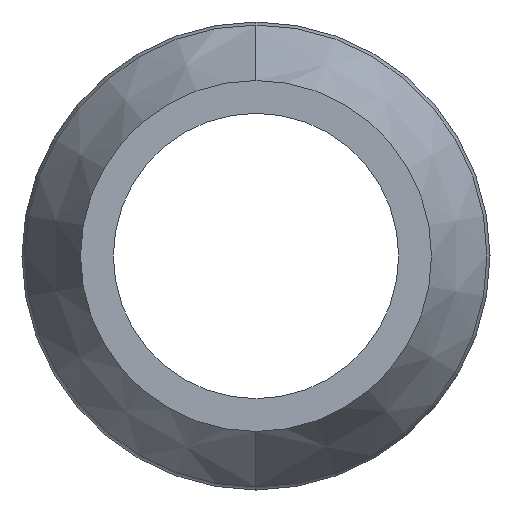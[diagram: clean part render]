
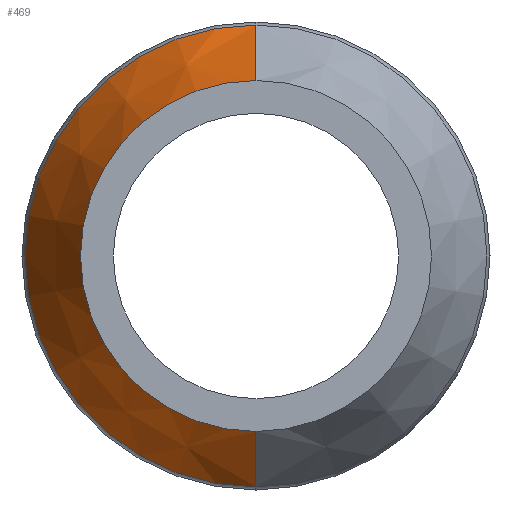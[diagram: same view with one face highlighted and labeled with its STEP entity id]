
A CAD part, left-side view. The second image highlights one B-rep face of the part: STEP entity #469.
In plain terms, the highlighted conical face has half-angle 26.565 degrees and reference radius 4.763 mm.
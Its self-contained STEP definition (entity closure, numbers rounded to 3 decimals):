
#12 = DIRECTION ( 'NONE',  ( 1., 0., 0. ) ) ;
#25 = CARTESIAN_POINT ( 'NONE',  ( 19.05, 0., 4.763 ) ) ;
#36 = CARTESIAN_POINT ( 'NONE',  ( 22.059, 0., 6.267 ) ) ;
#38 = DIRECTION ( 'NONE',  ( 0.894, 0., -0.447 ) ) ;
#40 = AXIS2_PLACEMENT_3D ( 'NONE', #362, #227, #149 ) ;
#52 = ORIENTED_EDGE ( 'NONE', *, *, #156, .F. ) ;
#57 = DIRECTION ( 'NONE',  ( 1., 0., 0. ) ) ;
#68 = VECTOR ( 'NONE', #38, 1000. ) ;
#77 = CARTESIAN_POINT ( 'NONE',  ( 19.05, 0., -4.763 ) ) ;
#87 = CARTESIAN_POINT ( 'NONE',  ( 22.059, 0., -6.267 ) ) ;
#127 = VECTOR ( 'NONE', #375, 1000. ) ;
#138 = LINE ( 'NONE', #77, #68 ) ;
#149 = DIRECTION ( 'NONE',  ( 0., 0., 1. ) ) ;
#153 = VERTEX_POINT ( 'NONE', #36 ) ;
#156 = EDGE_CURVE ( 'NONE', #309, #460, #138, .T. ) ;
#162 = DIRECTION ( 'NONE',  ( 0., 0., -1. ) ) ;
#166 = CARTESIAN_POINT ( 'NONE',  ( 19.05, 0., 0. ) ) ;
#170 = CARTESIAN_POINT ( 'NONE',  ( 19.05, 0., -4.763 ) ) ;
#175 = ORIENTED_EDGE ( 'NONE', *, *, #212, .T. ) ;
#211 = AXIS2_PLACEMENT_3D ( 'NONE', #166, #12, #162 ) ;
#212 = EDGE_CURVE ( 'NONE', #153, #460, #435, .T. ) ;
#227 = DIRECTION ( 'NONE',  ( -1., 0., 0. ) ) ;
#252 = CARTESIAN_POINT ( 'NONE',  ( 19.05, 0., 4.763 ) ) ;
#259 = CIRCLE ( 'NONE', #260, 4.763 ) ;
#260 = AXIS2_PLACEMENT_3D ( 'NONE', #367, #57, #289 ) ;
#264 = EDGE_LOOP ( 'NONE', ( #341, #391, #175, #52 ) ) ;
#272 = CONICAL_SURFACE ( 'NONE', #211, 4.763, 0.464 ) ;
#289 = DIRECTION ( 'NONE',  ( 0., 0., -1. ) ) ;
#309 = VERTEX_POINT ( 'NONE', #170 ) ;
#318 = EDGE_CURVE ( 'NONE', #386, #153, #467, .T. ) ;
#341 = ORIENTED_EDGE ( 'NONE', *, *, #415, .T. ) ;
#362 = CARTESIAN_POINT ( 'NONE',  ( 22.059, 0., 0. ) ) ;
#367 = CARTESIAN_POINT ( 'NONE',  ( 19.05, 0., 0. ) ) ;
#375 = DIRECTION ( 'NONE',  ( 0.894, 0., 0.447 ) ) ;
#386 = VERTEX_POINT ( 'NONE', #25 ) ;
#391 = ORIENTED_EDGE ( 'NONE', *, *, #318, .T. ) ;
#407 = FACE_OUTER_BOUND ( 'NONE', #264, .T. ) ;
#415 = EDGE_CURVE ( 'NONE', #309, #386, #259, .T. ) ;
#435 = CIRCLE ( 'NONE', #40, 6.267 ) ;
#460 = VERTEX_POINT ( 'NONE', #87 ) ;
#467 = LINE ( 'NONE', #252, #127 ) ;
#469 = ADVANCED_FACE ( 'NONE', ( #407 ), #272, .T. ) ;
